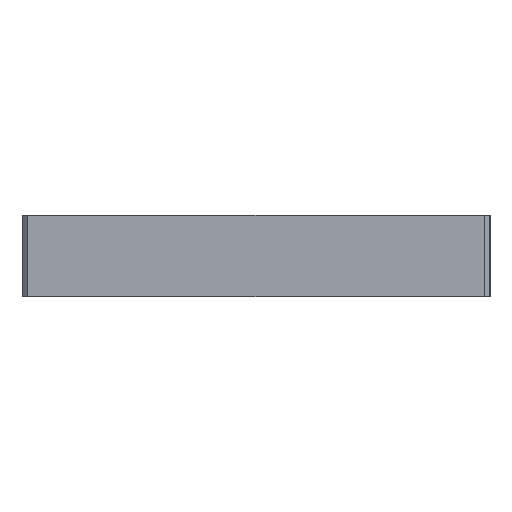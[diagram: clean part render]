
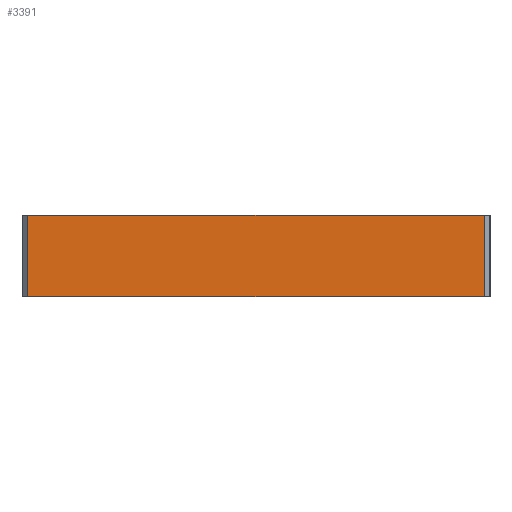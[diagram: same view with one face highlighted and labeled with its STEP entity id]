
A CAD part, left-side view. The second image highlights one B-rep face of the part: STEP entity #3391.
In plain terms, the highlighted planar face has unit normal (-1, 0, 0).
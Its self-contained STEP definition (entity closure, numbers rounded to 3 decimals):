
#296=FACE_OUTER_BOUND('',#487,.T.);
#487=EDGE_LOOP('',(#2256,#2257,#2258,#2259));
#701=LINE('',#4346,#1047);
#704=LINE('',#4352,#1050);
#705=LINE('',#4354,#1051);
#706=LINE('',#4355,#1052);
#1047=VECTOR('',#3737,10.);
#1050=VECTOR('',#3742,10.);
#1051=VECTOR('',#3743,10.);
#1052=VECTOR('',#3744,10.);
#1393=VERTEX_POINT('',#4343);
#1394=VERTEX_POINT('',#4345);
#1396=VERTEX_POINT('',#4351);
#1397=VERTEX_POINT('',#4353);
#1737=EDGE_CURVE('',#1393,#1394,#701,.T.);
#1740=EDGE_CURVE('',#1393,#1396,#704,.T.);
#1741=EDGE_CURVE('',#1397,#1396,#705,.T.);
#1742=EDGE_CURVE('',#1397,#1394,#706,.T.);
#2256=ORIENTED_EDGE('',*,*,#1737,.F.);
#2257=ORIENTED_EDGE('',*,*,#1740,.T.);
#2258=ORIENTED_EDGE('',*,*,#1741,.F.);
#2259=ORIENTED_EDGE('',*,*,#1742,.T.);
#3285=PLANE('',#3603);
#3391=ADVANCED_FACE('',(#296),#3285,.T.);
#3603=AXIS2_PLACEMENT_3D('',#4350,#3740,#3741);
#3737=DIRECTION('',(0.,0.,-1.));
#3740=DIRECTION('center_axis',(-1.,0.,0.));
#3741=DIRECTION('ref_axis',(0.,0.,1.));
#3742=DIRECTION('',(0.,1.,0.));
#3743=DIRECTION('',(0.,0.,1.));
#3744=DIRECTION('',(0.,-1.,0.));
#4343=CARTESIAN_POINT('',(-48.982,-21.694,7.));
#4345=CARTESIAN_POINT('',(-48.982,-21.694,0.));
#4346=CARTESIAN_POINT('',(-48.982,-21.694,0.));
#4350=CARTESIAN_POINT('Origin',(-48.982,-22.194,0.));
#4351=CARTESIAN_POINT('',(-48.982,17.306,7.));
#4352=CARTESIAN_POINT('',(-48.982,17.806,7.));
#4353=CARTESIAN_POINT('',(-48.982,17.306,0.));
#4354=CARTESIAN_POINT('',(-48.982,17.306,0.));
#4355=CARTESIAN_POINT('',(-48.982,17.806,0.));
